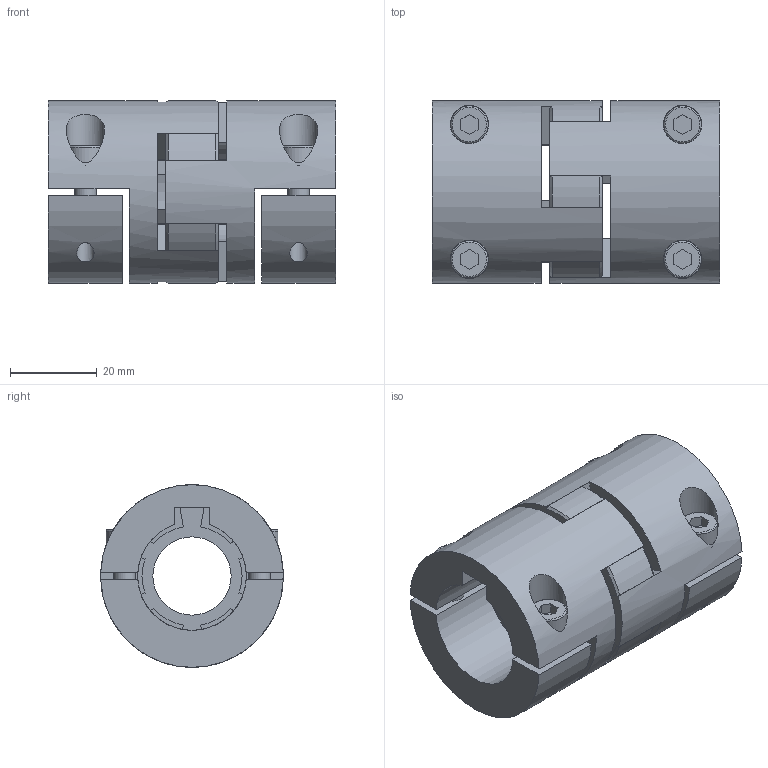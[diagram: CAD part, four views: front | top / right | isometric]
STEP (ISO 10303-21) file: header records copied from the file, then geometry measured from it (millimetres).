
FILE_DESCRIPTION(/* description */ ('STEP AP214'),/* implementation_level */ '2;1');
FILE_NAME(/* name */ 'C:\Diequa Files\DieQua Coupling\ECS\STP\ECS.20.ABC.#.#.stp',/* time_stamp */ '2018-12-07T11:44:38-06:00',/* author */ ('DiequaCAD'),/* organization */ (''),/* preprocessor_version */ 'ST-DEVELOPER v17.2',/* originating_system */ 'Autodesk Inventor 2019',/* authorisation */ ' ');
FILE_SCHEMA (('AUTOMOTIVE_DESIGN { 1 0 10303 214 3 1 1 }'));
Length unit declared in the file: millimetre
Products named in the file (3): EKH_20_A_25_PFN_25_PFN_43; 2018_11_29__15-57-58-480; 2018_11_29__15-57-58-480_5
Assembly tree (3 placements, depth 2):
  EKH_20_A_25_PFN_25_PFN_43
    2018_11_29__15-57-58-480
    2018_11_29__15-57-58-480_5  x2
Bounding box: 66 x 42 x 42 mm (x, y, z)
Volume: 54485.8 mm3; surface area: 26801.5 mm2
Topology: 3 solids, 7 shells, 185 faces, 481 edges, 330 vertices
Faces by surface type: plane 118, cylinder 51, cone 12, torus 4
Full cylindrical faces by diameter (mm): 4 x8, 5 x4, 5.5 x4, 8.5 x4, 8.8 x4, 18 x1, 42 x2
Entity records: 3796 total; most frequent: CARTESIAN_POINT 769, DIRECTION 637, ORIENTED_EDGE 594, EDGE_CURVE 297, AXIS2_PLACEMENT_3D 229, VERTEX_POINT 203, LINE 179, VECTOR 179
